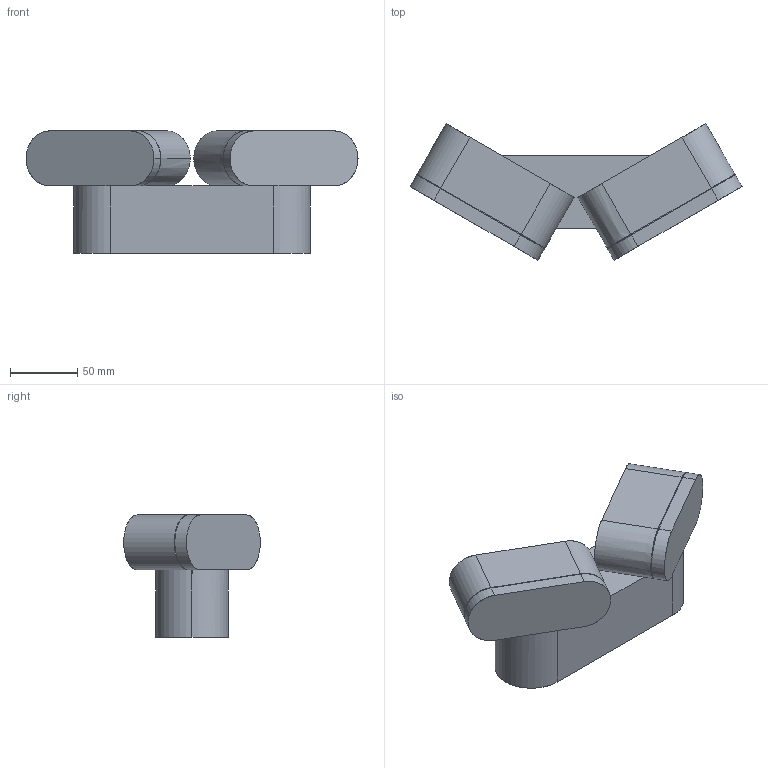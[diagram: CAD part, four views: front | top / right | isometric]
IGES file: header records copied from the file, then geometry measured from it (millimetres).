
Start section: SolidWorks IGES file using analytic representation for surfaces
Global section: file name: C:\Users\danielet\Desktop\3D CARLOS\KANSAS-A2025-3D\KANSAS-A2025-3D.IGS; native system: SolidWorks 2018; preprocessor: SolidWorks 2018; author: danielet; date: 220131.101838; units: millimetre
Bounding box: 247.26 x 101.77 x 91 mm (x, y, z)
Surface area: 78079.7 mm2 (no closed solid volume)
Topology: 0 solids, 0 shells, 49 faces, 1112 edges, 1112 vertices
Faces by surface type: bspline 28, revolution 21
